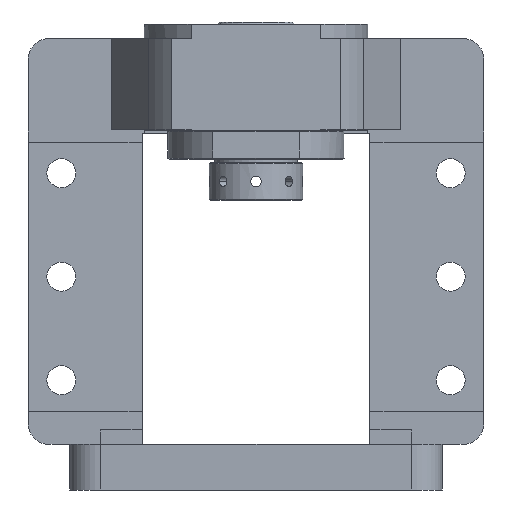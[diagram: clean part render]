
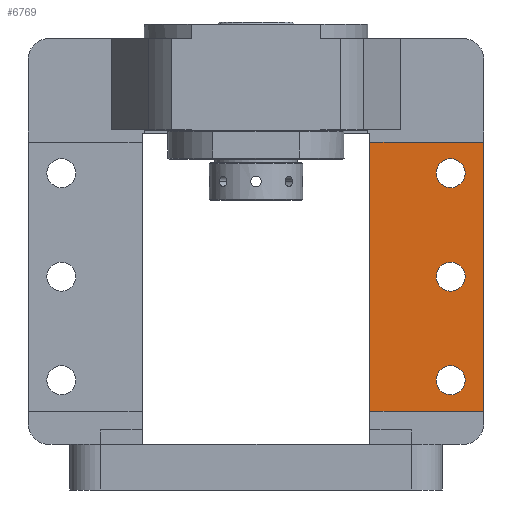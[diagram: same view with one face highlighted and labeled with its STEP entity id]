
A CAD part, front view. The second image highlights one B-rep face of the part: STEP entity #6769.
In plain terms, the highlighted planar face has unit normal (0, -1, 0).
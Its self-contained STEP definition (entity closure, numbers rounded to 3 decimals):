
#80 = ORIENTED_EDGE ( 'NONE', *, *, #9008, .F. ) ;
#277 = CARTESIAN_POINT ( 'NONE',  ( 94., 0., 110. ) ) ;
#374 = EDGE_CURVE ( 'NONE', #7654, #2949, #6341, .T. ) ;
#475 = AXIS2_PLACEMENT_3D ( 'NONE', #4693, #11246, #5661 ) ;
#480 = PLANE ( 'NONE',  #2358 ) ;
#522 = FACE_BOUND ( 'NONE', #4083, .T. ) ;
#527 = DIRECTION ( 'NONE',  ( 0., 0., -1. ) ) ;
#536 = DIRECTION ( 'NONE',  ( 0., 0., -1. ) ) ;
#630 = CARTESIAN_POINT ( 'NONE',  ( 110., 0., 38. ) ) ;
#1465 = EDGE_CURVE ( 'NONE', #11420, #7167, #3177, .T. ) ;
#1879 = VERTEX_POINT ( 'NONE', #6840 ) ;
#2148 = ORIENTED_EDGE ( 'NONE', *, *, #374, .F. ) ;
#2339 = CARTESIAN_POINT ( 'NONE',  ( 94., 0., 53. ) ) ;
#2358 = AXIS2_PLACEMENT_3D ( 'NONE', #4284, #6211, #527 ) ;
#2400 = VERTEX_POINT ( 'NONE', #9162 ) ;
#2489 = VERTEX_POINT ( 'NONE', #3703 ) ;
#2524 = ORIENTED_EDGE ( 'NONE', *, *, #11198, .F. ) ;
#2949 = VERTEX_POINT ( 'NONE', #8443 ) ;
#3177 = LINE ( 'NONE', #9920, #10389 ) ;
#3270 = DIRECTION ( 'NONE',  ( 0., 0., -1. ) ) ;
#3274 = DIRECTION ( 'NONE',  ( 0., -1., 0. ) ) ;
#3325 = VECTOR ( 'NONE', #4627, 1000. ) ;
#3703 = CARTESIAN_POINT ( 'NONE',  ( 94., 0., 46. ) ) ;
#3709 = CIRCLE ( 'NONE', #10470, 7. ) ;
#3844 = CIRCLE ( 'NONE', #4993, 7. ) ;
#4011 = CARTESIAN_POINT ( 'NONE',  ( 94., 0., 153. ) ) ;
#4083 = EDGE_LOOP ( 'NONE', ( #12203, #2148 ) ) ;
#4284 = CARTESIAN_POINT ( 'NONE',  ( 110., 0., 225. ) ) ;
#4293 = EDGE_CURVE ( 'NONE', #10567, #9150, #9660, .T. ) ;
#4399 = CARTESIAN_POINT ( 'NONE',  ( 110., 0., 225. ) ) ;
#4601 = ORIENTED_EDGE ( 'NONE', *, *, #10391, .F. ) ;
#4627 = DIRECTION ( 'NONE',  ( 1., 0., 0. ) ) ;
#4675 = VECTOR ( 'NONE', #10956, 1000. ) ;
#4693 = CARTESIAN_POINT ( 'NONE',  ( 94., 0., 103. ) ) ;
#4706 = DIRECTION ( 'NONE',  ( 0., -1., 0. ) ) ;
#4712 = CARTESIAN_POINT ( 'NONE',  ( 55., 0., 168. ) ) ;
#4771 = AXIS2_PLACEMENT_3D ( 'NONE', #4011, #10574, #4972 ) ;
#4885 = AXIS2_PLACEMENT_3D ( 'NONE', #8900, #3274, #9849 ) ;
#4972 = DIRECTION ( 'NONE',  ( 0., 0., -1. ) ) ;
#4993 = AXIS2_PLACEMENT_3D ( 'NONE', #2339, #8897, #3270 ) ;
#5016 = EDGE_CURVE ( 'NONE', #11122, #2400, #10378, .T. ) ;
#5024 = EDGE_LOOP ( 'NONE', ( #80, #9573 ) ) ;
#5067 = LINE ( 'NONE', #10620, #10059 ) ;
#5174 = CARTESIAN_POINT ( 'NONE',  ( 94., 0., 53. ) ) ;
#5267 = FACE_OUTER_BOUND ( 'NONE', #10614, .T. ) ;
#5577 = AXIS2_PLACEMENT_3D ( 'NONE', #5174, #11719, #6134 ) ;
#5661 = DIRECTION ( 'NONE',  ( 0., 0., -1. ) ) ;
#5673 = ORIENTED_EDGE ( 'NONE', *, *, #8572, .T. ) ;
#6134 = DIRECTION ( 'NONE',  ( 0., 0., -1. ) ) ;
#6211 = DIRECTION ( 'NONE',  ( 0., -1., 0. ) ) ;
#6341 = CIRCLE ( 'NONE', #4771, 7. ) ;
#6769 = ADVANCED_FACE ( 'NONE', ( #522, #10520, #7746, #5267 ), #480, .T. ) ;
#6840 = CARTESIAN_POINT ( 'NONE',  ( 94., 0., 60. ) ) ;
#7167 = VERTEX_POINT ( 'NONE', #10764 ) ;
#7455 = ORIENTED_EDGE ( 'NONE', *, *, #4293, .F. ) ;
#7483 = CARTESIAN_POINT ( 'NONE',  ( 110., 0., 38. ) ) ;
#7654 = VERTEX_POINT ( 'NONE', #11880 ) ;
#7746 = FACE_BOUND ( 'NONE', #5024, .T. ) ;
#8089 = CIRCLE ( 'NONE', #5577, 7. ) ;
#8331 = LINE ( 'NONE', #7483, #3325 ) ;
#8443 = CARTESIAN_POINT ( 'NONE',  ( 94., 0., 146. ) ) ;
#8572 = EDGE_CURVE ( 'NONE', #10567, #11420, #5067, .T. ) ;
#8897 = DIRECTION ( 'NONE',  ( 0., -1., 0. ) ) ;
#8900 = CARTESIAN_POINT ( 'NONE',  ( 94., 0., 103. ) ) ;
#9008 = EDGE_CURVE ( 'NONE', #2400, #11122, #11219, .T. ) ;
#9143 = CARTESIAN_POINT ( 'NONE',  ( 110., 0., 168. ) ) ;
#9150 = VERTEX_POINT ( 'NONE', #630 ) ;
#9162 = CARTESIAN_POINT ( 'NONE',  ( 94., 0., 96. ) ) ;
#9573 = ORIENTED_EDGE ( 'NONE', *, *, #5016, .F. ) ;
#9660 = LINE ( 'NONE', #4399, #4675 ) ;
#9849 = DIRECTION ( 'NONE',  ( 0., 0., -1. ) ) ;
#9920 = CARTESIAN_POINT ( 'NONE',  ( 55., 0., 225. ) ) ;
#10037 = EDGE_CURVE ( 'NONE', #2949, #7654, #3709, .T. ) ;
#10059 = VECTOR ( 'NONE', #11562, 1000. ) ;
#10244 = ORIENTED_EDGE ( 'NONE', *, *, #11363, .T. ) ;
#10324 = CARTESIAN_POINT ( 'NONE',  ( 94., 0., 153. ) ) ;
#10378 = CIRCLE ( 'NONE', #475, 7. ) ;
#10389 = VECTOR ( 'NONE', #536, 1000. ) ;
#10391 = EDGE_CURVE ( 'NONE', #1879, #2489, #3844, .T. ) ;
#10470 = AXIS2_PLACEMENT_3D ( 'NONE', #10324, #4706, #11264 ) ;
#10520 = FACE_BOUND ( 'NONE', #11172, .T. ) ;
#10567 = VERTEX_POINT ( 'NONE', #9143 ) ;
#10574 = DIRECTION ( 'NONE',  ( 0., -1., 0. ) ) ;
#10614 = EDGE_LOOP ( 'NONE', ( #7455, #5673, #11649, #10244 ) ) ;
#10620 = CARTESIAN_POINT ( 'NONE',  ( 110., 0., 168. ) ) ;
#10764 = CARTESIAN_POINT ( 'NONE',  ( 55., 0., 38. ) ) ;
#10956 = DIRECTION ( 'NONE',  ( 0., 0., -1. ) ) ;
#11122 = VERTEX_POINT ( 'NONE', #277 ) ;
#11172 = EDGE_LOOP ( 'NONE', ( #2524, #4601 ) ) ;
#11198 = EDGE_CURVE ( 'NONE', #2489, #1879, #8089, .T. ) ;
#11219 = CIRCLE ( 'NONE', #4885, 7. ) ;
#11246 = DIRECTION ( 'NONE',  ( 0., -1., 0. ) ) ;
#11264 = DIRECTION ( 'NONE',  ( 0., 0., -1. ) ) ;
#11363 = EDGE_CURVE ( 'NONE', #7167, #9150, #8331, .T. ) ;
#11420 = VERTEX_POINT ( 'NONE', #4712 ) ;
#11562 = DIRECTION ( 'NONE',  ( -1., 0., 0. ) ) ;
#11649 = ORIENTED_EDGE ( 'NONE', *, *, #1465, .T. ) ;
#11719 = DIRECTION ( 'NONE',  ( 0., -1., 0. ) ) ;
#11880 = CARTESIAN_POINT ( 'NONE',  ( 94., 0., 160. ) ) ;
#12203 = ORIENTED_EDGE ( 'NONE', *, *, #10037, .F. ) ;
